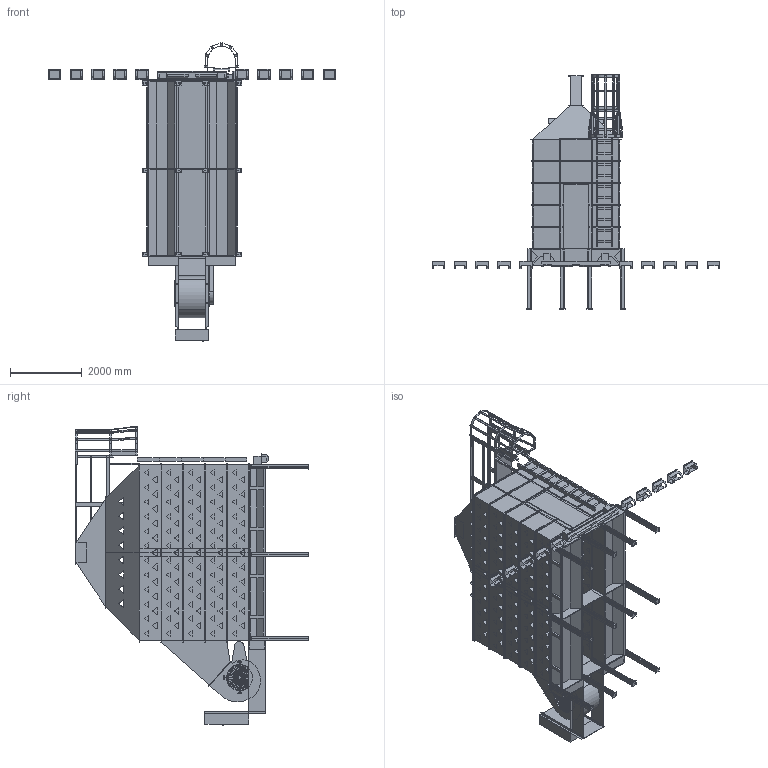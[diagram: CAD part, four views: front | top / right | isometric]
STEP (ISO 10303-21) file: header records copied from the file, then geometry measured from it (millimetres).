
FILE_DESCRIPTION(/* description */ ('PLAN AND ELEVATION VIEW FOR D1670 WITH ROOF & GRAVITY FILL'),/* implementation_level */ '2;1');
FILE_NAME(/* name */ 'C:\Engineering\Designs\Sales\Dryer\Workspaces\D16 All\D1670GF.stp',/* time_stamp */ '2025-01-06T16:41:05-06:00',/* author */ ('max.fleming'),/* organization */ (''),/* preprocessor_version */ 'ST-DEVELOPER v18.1',/* originating_system */ 'Autodesk Inventor 2022',/* authorisation */ '');
FILE_SCHEMA (('AUTOMOTIVE_DESIGN { 1 0 10303 214 3 1 1 }'));
Products named in the file (21): D1670GF; 16FT FRAME; 8FT LHRH FRAME; 16FT Grav Assy; 16FT ROOF GF; 8FTRoof GF LHRH; 16FT BODY TIER; LH Body; RH Body; LH Body_MIR6; RH Body_MIR6; Outside Splice; Trans & Blower 16FT; Standard Size End Plenum Panels; Ladder 2' section; 6'' CROSS AUGER; Short Tongue; Leg Kit-02; 16FT CATWALK; Belt Shield; Screen Guard 16
Assembly tree (43 placements, depth 3):
  D1670GF
    16FT FRAME
      8FT LHRH FRAME  x2
    16FT Grav Assy
    16FT ROOF GF
      8FTRoof GF LHRH  x2
    16FT BODY TIER  x5
      LH Body
      RH Body
      LH Body_MIR6
      RH Body_MIR6
      Outside Splice
    Leg Kit-02  x12
    Trans & Blower 16FT
    Standard Size End Plenum Panels  x7
    Short Tongue
    16FT CATWALK
    Belt Shield
    Screen Guard 16  x2
  Ladder 2' section
  6'' CROSS AUGER
Bounding box: 8007.35 x 6510.74 x 8298.27 mm (x, y, z)
Volume: 31016276974.3 mm3; surface area: 425510466.2 mm2
Topology: 88 solids, 88 shells, 6228 faces, 17407 edges, 11402 vertices
Faces by surface type: plane 4717, cylinder 1483, bspline 26, torus 2
Full cylindrical faces by diameter (mm): 15.875 x48, 38.1 x1, 44.45 x12, 95.25 x2, 127 x2
Entity records: 100023 total; most frequent: CARTESIAN_POINT 17765, ORIENTED_EDGE 17384, DIRECTION 16104, EDGE_CURVE 8692, LINE 7208, VECTOR 7208, VERTEX_POINT 5693, AXIS2_PLACEMENT_3D 4448
